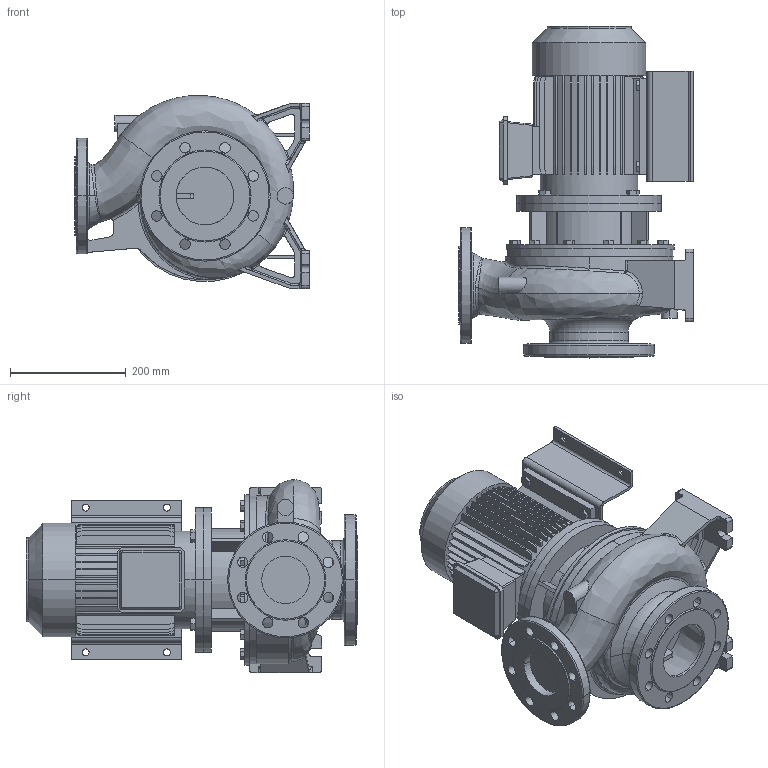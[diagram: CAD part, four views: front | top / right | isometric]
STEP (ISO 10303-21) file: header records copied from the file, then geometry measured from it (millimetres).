
FILE_DESCRIPTION((''),'2;1');
FILE_NAME('3S4_80-160_2_2_IE3_ASM','2016-09-24T',('rosa'),('"Ebara Pumps Europe +39.444.706811"'),'PRO/ENGINEER BY PARAMETRIC TECHNOLOGY CORPORATION, 2012130','PRO/ENGINEER BY PARAMETRIC TECHNOLOGY CORPORATION, 2012130','');
FILE_SCHEMA(('AUTOMOTIVE_DESIGN { 1 0 10303 214 1 1 1 1 }'));
Length unit declared in the file: millimetre
Products named in the file (6): MOTORE_100L_2_2_KW_4POLI_B35; SUPPORTO_3S_230_100_112; SOSTEGNO_72119; M10X22; CORPO_POMPA_80-160; 3S4_80-160_2_2_IE3_ASM
Assembly tree (8 placements, depth 2):
  3S4_80-160_2_2_IE3_ASM
    MOTORE_100L_2_2_KW_4POLI_B35
    SUPPORTO_3S_230_100_112
    SOSTEGNO_72119
    M10X22  x4
    CORPO_POMPA_80-160
Bounding box: 405 x 573 x 333.72 mm (x, y, z)
Volume: 19925891.3 mm3; surface area: 1567072.1 mm2
Topology: 8 solids, 8 shells, 965 faces, 2454 edges, 1584 vertices
Faces by surface type: plane 587, cylinder 216, bspline 82, cone 40, torus 30, sphere 10
Entity records: 41330 total; most frequent: CARTESIAN_POINT 11301, ORIENTED_EDGE 4630, DIRECTION 4301, PRESENTATION_STYLE_ASSIGNMENT 2320, STYLED_ITEM 2320, CURVE_STYLE 2315, EDGE_CURVE 2315, VERTEX_POINT 1500
